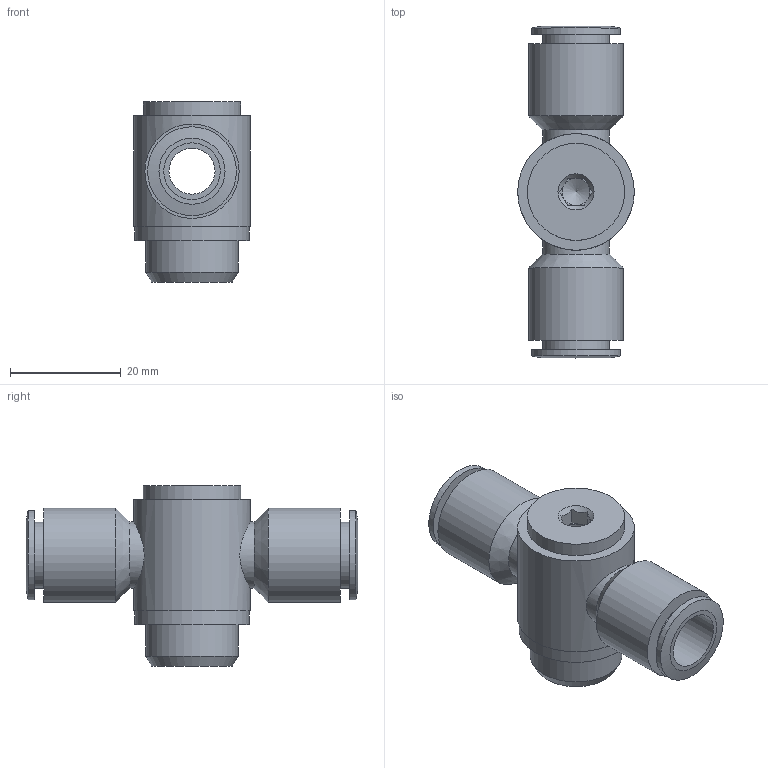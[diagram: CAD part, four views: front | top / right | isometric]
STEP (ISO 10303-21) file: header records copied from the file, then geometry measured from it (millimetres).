
FILE_DESCRIPTION((''),'2;1');
FILE_NAME('C:\Documents and Settings\rivolro1\Documenti\copia di Raccordi\PLASTICA\T16XXXX\T161038.stp','2007-10-31T15:07:05',('Rivolro1'),(''),'Autodesk Inventor 2008','Autodesk Inventor 2008','');
FILE_SCHEMA(('AUTOMOTIVE_DESIGN { 1 0 10303 214 1 1 1 1 }'));
Length unit declared in the file: millimetre
Products named in the file (1): T161038
Bounding box: 21 x 59.8 x 32.5 mm (x, y, z)
Volume: 13402.9 mm3; surface area: 7076.4 mm2
Topology: 1 solids, 1 shells, 48 faces, 101 edges, 65 vertices
Faces by surface type: plane 23, cylinder 12, bspline 8, cone 5
Full cylindrical faces by diameter (mm): 11.9 x2, 12 x2, 16 x2, 16.6 x1, 17 x2, 17.5 x1, 20.6 x1, 21 x1
Entity records: 1399 total; most frequent: CARTESIAN_POINT 461, DIRECTION 178, ORIENTED_EDGE 142, EDGE_LOOP 84, AXIS2_PLACEMENT_3D 80, EDGE_CURVE 71, VERTEX_POINT 59, FACE_OUTER_BOUND 48
